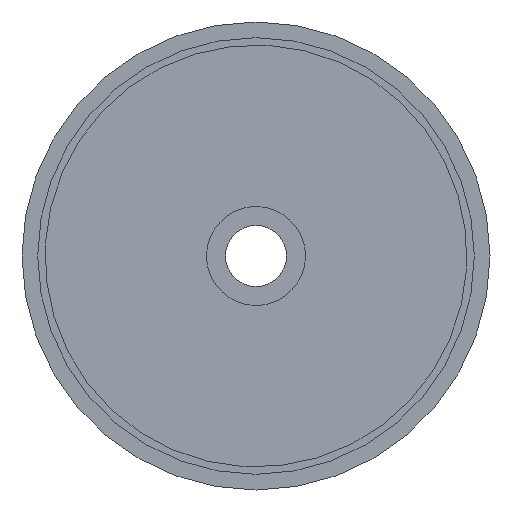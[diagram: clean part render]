
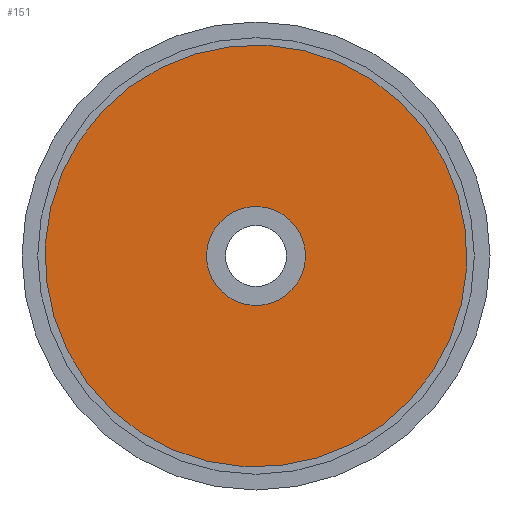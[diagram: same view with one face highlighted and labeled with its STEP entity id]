
A CAD part, front view. The second image highlights one B-rep face of the part: STEP entity #151.
In plain terms, the highlighted planar face has unit normal (0, -1, 0).
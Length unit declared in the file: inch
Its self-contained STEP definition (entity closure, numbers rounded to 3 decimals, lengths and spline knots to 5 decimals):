
#20 = ORIENTED_EDGE ( 'NONE', *, *, #474, .F. ) ;
#25 = EDGE_CURVE ( 'NONE', #255, #226, #65, .T. ) ;
#33 = AXIS2_PLACEMENT_3D ( 'NONE', #458, #412, #128 ) ;
#35 = DIRECTION ( 'NONE',  ( 0., 1., 0. ) ) ;
#43 = CARTESIAN_POINT ( 'NONE',  ( -0.30168, -0.1775, -0.45988 ) ) ;
#65 = CIRCLE ( 'NONE', #280, 0.55 ) ;
#75 = DIRECTION ( 'NONE',  ( 0., 1., 0. ) ) ;
#86 = PLANE ( 'NONE',  #299 ) ;
#88 = EDGE_LOOP ( 'NONE', ( #231, #20 ) ) ;
#94 = VERTEX_POINT ( 'NONE', #238 ) ;
#96 = CARTESIAN_POINT ( 'NONE',  ( 0., -0.1775, 0. ) ) ;
#115 = CARTESIAN_POINT ( 'NONE',  ( 0., -0.1775, 0. ) ) ;
#128 = DIRECTION ( 'NONE',  ( -0.549, 0., -0.836 ) ) ;
#151 = ADVANCED_FACE ( 'NONE', ( #308, #386 ), #86, .F. ) ;
#169 = CARTESIAN_POINT ( 'NONE',  ( 0., -0.1775, 0. ) ) ;
#170 = AXIS2_PLACEMENT_3D ( 'NONE', #229, #264, #481 ) ;
#171 = EDGE_CURVE ( 'NONE', #362, #94, #375, .T. ) ;
#190 = CIRCLE ( 'NONE', #170, 0.55 ) ;
#226 = VERTEX_POINT ( 'NONE', #43 ) ;
#229 = CARTESIAN_POINT ( 'NONE',  ( 0., -0.1775, 0. ) ) ;
#231 = ORIENTED_EDGE ( 'NONE', *, *, #25, .F. ) ;
#238 = CARTESIAN_POINT ( 'NONE',  ( 0.07076, -0.1775, 0.10786 ) ) ;
#245 = EDGE_LOOP ( 'NONE', ( #298, #283 ) ) ;
#255 = VERTEX_POINT ( 'NONE', #537 ) ;
#264 = DIRECTION ( 'NONE',  ( 0., 1., 0. ) ) ;
#269 = EDGE_CURVE ( 'NONE', #94, #362, #409, .T. ) ;
#280 = AXIS2_PLACEMENT_3D ( 'NONE', #115, #75, #403 ) ;
#283 = ORIENTED_EDGE ( 'NONE', *, *, #171, .T. ) ;
#298 = ORIENTED_EDGE ( 'NONE', *, *, #269, .T. ) ;
#299 = AXIS2_PLACEMENT_3D ( 'NONE', #169, #35, #411 ) ;
#308 = FACE_OUTER_BOUND ( 'NONE', #88, .T. ) ;
#362 = VERTEX_POINT ( 'NONE', #419 ) ;
#375 = CIRCLE ( 'NONE', #33, 0.129 ) ;
#378 = DIRECTION ( 'NONE',  ( 0., 1., 0. ) ) ;
#386 = FACE_BOUND ( 'NONE', #245, .T. ) ;
#403 = DIRECTION ( 'NONE',  ( -0.549, 0., -0.836 ) ) ;
#409 = CIRCLE ( 'NONE', #541, 0.129 ) ;
#411 = DIRECTION ( 'NONE',  ( -0.549, 0., -0.836 ) ) ;
#412 = DIRECTION ( 'NONE',  ( 0., 1., 0. ) ) ;
#419 = CARTESIAN_POINT ( 'NONE',  ( -0.07076, -0.1775, -0.10786 ) ) ;
#428 = DIRECTION ( 'NONE',  ( -0.549, 0., -0.836 ) ) ;
#458 = CARTESIAN_POINT ( 'NONE',  ( 0., -0.1775, 0. ) ) ;
#474 = EDGE_CURVE ( 'NONE', #226, #255, #190, .T. ) ;
#481 = DIRECTION ( 'NONE',  ( -0.549, 0., -0.836 ) ) ;
#537 = CARTESIAN_POINT ( 'NONE',  ( 0.30168, -0.1775, 0.45988 ) ) ;
#541 = AXIS2_PLACEMENT_3D ( 'NONE', #96, #378, #428 ) ;
